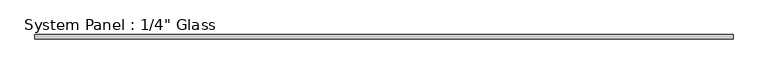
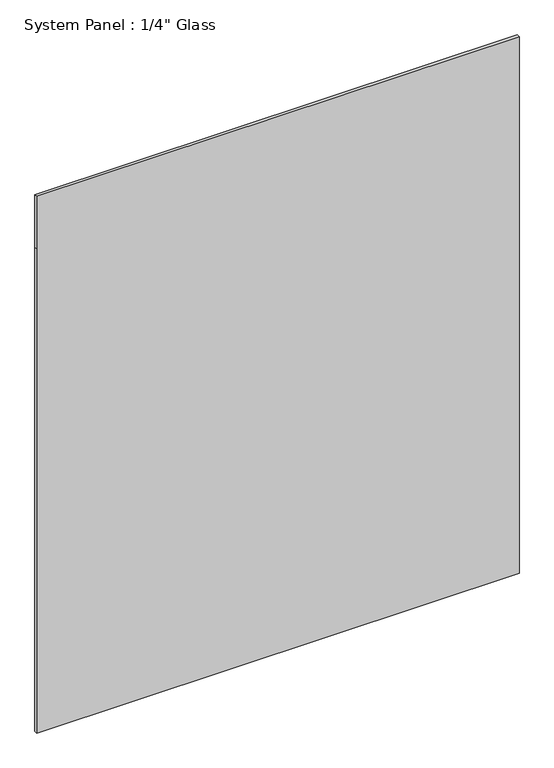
"""IFC4 building model written with IfcOpenShell, lengths in millimetres: plate geometry."""

from ifc_helpers import new_model, si_unit, frame, origin, place, context, project, spatial, polyline, outline, extrude, source, transform, mapped, element, save


def plate_58e7cea2(model_context):
    return source(origin(), model_context, "Body", "SweptSolid", [
        extrude(outline(polyline([(0.0, -525.8680918), (0.0, 525.8680918), (1116.4405973, 525.8680918), (1237.0923678, 525.8680918), (1237.0923678, -525.8680918), (1116.4405973, -525.8680918), (0.0, -525.8680918)])), frame((0.0, -3.175, 0.0), z_axis=(0.0, 1.0, 0.0), x_axis=(0.0, 0.0, 1.0)), (0.0, 0.0, 1.0), 6.35),
    ])


if __name__ == "__main__":
    model = new_model("IFC4")
    model_context = context("Model", 3, world=origin())
    ifc_project = project(units=[si_unit("LENGTHUNIT", "METRE", prefix="MILLI")], contexts=[model_context])
    site = spatial("IfcSite", under=ifc_project)
    building = spatial("IfcBuilding", under=site)
    placement = place(None, origin())
    plate_shape = plate_58e7cea2(model_context)
    element("IfcPlate", 1, ObjectType="System Panel : 1/4\" Glass", at=placement, inside=building, context=model_context, shape_type="MappedRepresentation", body=[
        mapped(plate_shape, transform((0.0, 0.0, 0.0), x_axis=(1.0, 0.0, 0.0), y_axis=(0.0, 1.0, 0.0), z_axis=(0.0, 0.0, 1.0))),
    ])
    save(model, "model.ifc")
